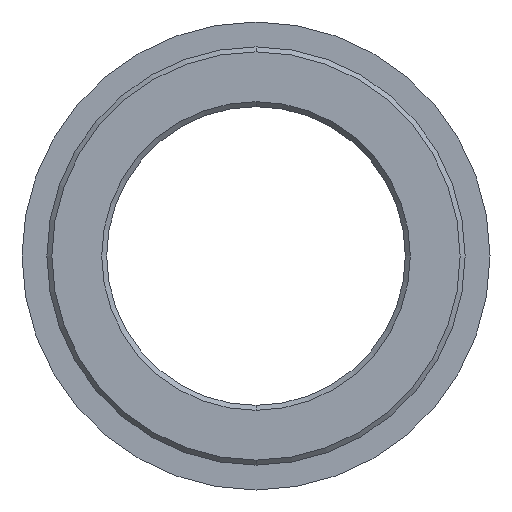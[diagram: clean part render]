
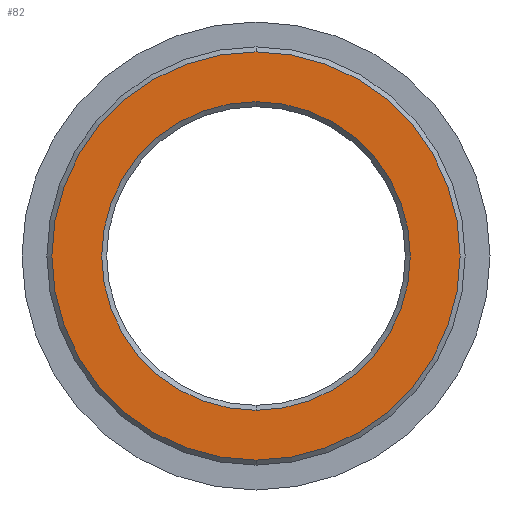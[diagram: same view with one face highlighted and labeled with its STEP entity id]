
A CAD part, left-side view. The second image highlights one B-rep face of the part: STEP entity #82.
In plain terms, the highlighted free-form (B-spline) face has degree [1, 1] with [2, 2] control points.
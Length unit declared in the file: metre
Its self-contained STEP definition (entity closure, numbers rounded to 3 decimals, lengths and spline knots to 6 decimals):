
#82 = ADVANCED_FACE( '', ( #116, #117 ), #118, .F. );
#116 = FACE_BOUND( '', #181, .T. );
#117 = FACE_OUTER_BOUND( '', #182, .T. );
#118 = B_SPLINE_SURFACE_WITH_KNOTS( '', 1, 1, ( ( #183, #184 ), ( #185, #186 ) ), .UNSPECIFIED., .F., .F., .F., ( 2, 2 ), ( 2, 2 ), ( 0., 1. ), ( 0., 1. ), .UNSPECIFIED. );
#181 = EDGE_LOOP( '', ( #295, #296 ) );
#182 = EDGE_LOOP( '', ( #297, #298 ) );
#183 = CARTESIAN_POINT( '', ( 0., -0.020746, 0.020746 ) );
#184 = CARTESIAN_POINT( '', ( 0., 0.020746, 0.020746 ) );
#185 = CARTESIAN_POINT( '', ( 0., -0.020746, -0.020746 ) );
#186 = CARTESIAN_POINT( '', ( 0., 0.020746, -0.020746 ) );
#295 = ORIENTED_EDGE( '', *, *, #457, .F. );
#296 = ORIENTED_EDGE( '', *, *, #458, .F. );
#297 = ORIENTED_EDGE( '', *, *, #456, .T. );
#298 = ORIENTED_EDGE( '', *, *, #447, .T. );
#447 = EDGE_CURVE( '', #503, #504, #505, .F. );
#456 = EDGE_CURVE( '', #504, #503, #518, .F. );
#457 = EDGE_CURVE( '', #519, #520, #521, .T. );
#458 = EDGE_CURVE( '', #520, #519, #522, .T. );
#503 = VERTEX_POINT( '', #587 );
#504 = VERTEX_POINT( '', #588 );
#505 = CIRCLE( '', #589, 0.0205 );
#518 = CIRCLE( '', #606, 0.0205 );
#519 = VERTEX_POINT( '', #607 );
#520 = VERTEX_POINT( '', #608 );
#521 = CIRCLE( '', #609, 0.0155 );
#522 = CIRCLE( '', #610, 0.0155 );
#587 = CARTESIAN_POINT( '', ( 0., 0., -0.0205 ) );
#588 = CARTESIAN_POINT( '', ( 0., 0., 0.0205 ) );
#589 = AXIS2_PLACEMENT_3D( '', #695, #696, #697 );
#606 = AXIS2_PLACEMENT_3D( '', #714, #715, #716 );
#607 = CARTESIAN_POINT( '', ( 0., 0., -0.0155 ) );
#608 = CARTESIAN_POINT( '', ( 0., 0., 0.0155 ) );
#609 = AXIS2_PLACEMENT_3D( '', #717, #718, #719 );
#610 = AXIS2_PLACEMENT_3D( '', #720, #721, #722 );
#695 = CARTESIAN_POINT( '', ( 0., 0., 0. ) );
#696 = DIRECTION( '', ( 1., 0., 0. ) );
#697 = DIRECTION( '', ( 0., 0., -1. ) );
#714 = CARTESIAN_POINT( '', ( 0., 0., 0. ) );
#715 = DIRECTION( '', ( 1., 0., 0. ) );
#716 = DIRECTION( '', ( 0., 0., -1. ) );
#717 = CARTESIAN_POINT( '', ( 0., 0., 0. ) );
#718 = DIRECTION( '', ( -1., 0., 0. ) );
#719 = DIRECTION( '', ( 0., 0., 1. ) );
#720 = CARTESIAN_POINT( '', ( 0., 0., 0. ) );
#721 = DIRECTION( '', ( -1., 0., 0. ) );
#722 = DIRECTION( '', ( 0., 0., 1. ) );
